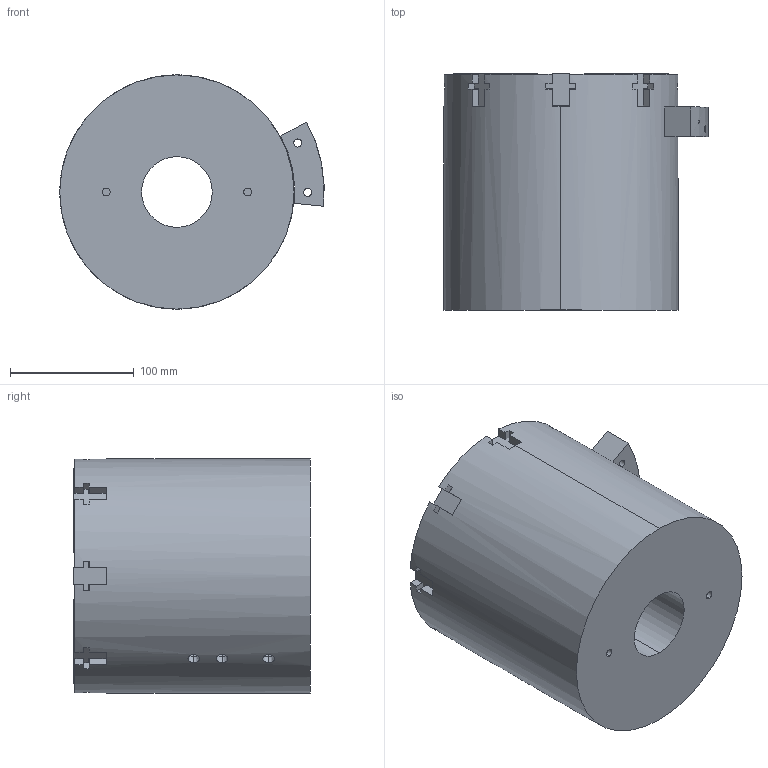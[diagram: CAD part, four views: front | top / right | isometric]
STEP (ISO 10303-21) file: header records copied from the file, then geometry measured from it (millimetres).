
FILE_DESCRIPTION (( 'STEP AP214' ), '1' );
FILE_NAME ('agp10or_closed.STEP', '2019-11-01T13:28:59', ( 'cad' ), ( '' ), 'SwSTEP 2.0', 'SolidWorks 2017', '' );
FILE_SCHEMA (( 'AUTOMOTIVE_DESIGN' ));
Length unit declared in the file: inch
Products named in the file (5): agp1012; _rail_agp10orx; agp-10_Jaw; _body_agp10orx; agp10or_closed
Assembly tree (18 placements, depth 2):
  agp10or_closed
    _body_agp10orx
    agp-10_Jaw  x8
    _rail_agp10orx  x8
    agp1012
Bounding box: 213.75 x 191.13 x 189.36 mm (x, y, z)
Volume: 4871958.4 mm3; surface area: 303393.3 mm2
Topology: 18 solids, 18 shells, 644 faces, 1680 edges, 1033 vertices
Faces by surface type: plane 276, cylinder 256, cone 112
Entity records: 10007 total; most frequent: CARTESIAN_POINT 2186, DIRECTION 1609, ORIENTED_EDGE 1510, EDGE_CURVE 755, AXIS2_PLACEMENT_3D 568, VERTEX_POINT 501, VECTOR 473, LINE 473
